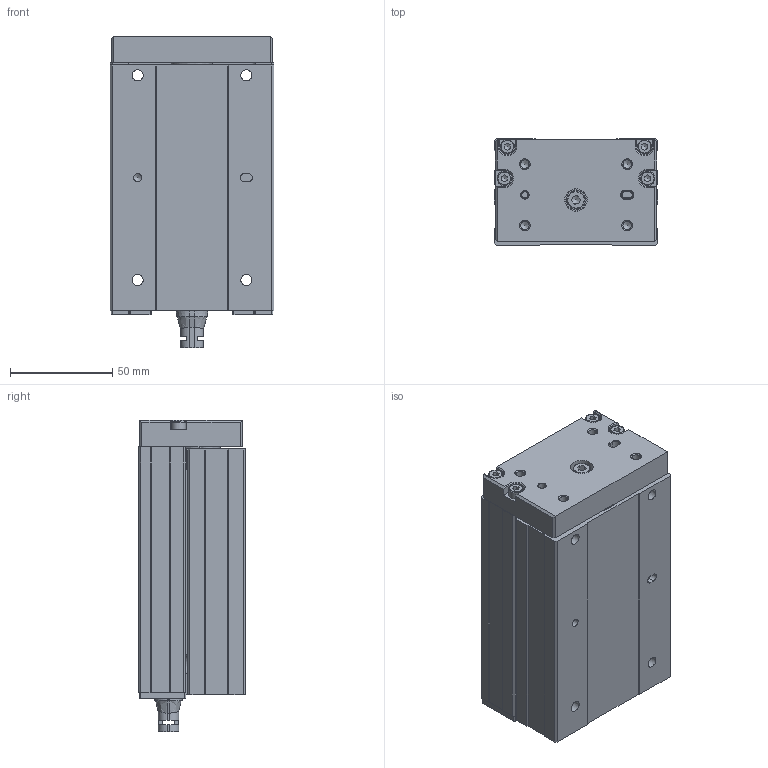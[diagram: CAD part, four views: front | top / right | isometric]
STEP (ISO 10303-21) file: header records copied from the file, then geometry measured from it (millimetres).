
FILE_DESCRIPTION((''),'2;1');
FILE_NAME('C:\Users\RD_15\Desktop\DMG40-50-3D外型.stp','2020-10-20T14:35:21',('RD_15'),(''),'Autodesk Inventor 2013','Autodesk Inventor 2013','');
FILE_SCHEMA(('AUTOMOTIVE_DESIGN { 1 0 10303 214 1 1 1 1 }'));
Length unit declared in the file: millimetre
Products named in the file (65): DMG40-50-3D外型; DMG40-50本體; 零件4730; 零件4774; 零件4776; 零件4778; 零件4782; 零件4804; 零件4806; 零件4808; 零件4810; 零件4812; 零件4814; 零件4816; 零件4820; 零件4738; 零件4842; 零件4844; 零件4846; 零件4848; 零件4850; 零件4852; 零件4854; 零件4856; 零件4858; 零件4860; 零件4862; 零件4864; 零件4866; 零件4868; 零件4870; 零件4872; 零件4874; 零件4876; 零件4878; 零件4880; 零件4882; 零件4946; 零件4948; 零件4950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
Assembly tree (66 placements, depth 2):
  DMG40-50-3D外型
    DMG40-50本體
    零件4730
    零件4774
    零件4776
    零件4778
    零件4782
    零件4804
    零件4806
    零件4808
    零件4810
    零件4812
    零件4814
    零件4816
    零件4820
    零件4738
    零件4842
    零件4844
    零件4846
    零件4848
    零件4850
    零件4852
    零件4854
    零件4856
    零件4858
    零件4860
    零件4862
    零件4864
    零件4866
    零件4868  x3
    零件4870
    零件4872
    零件4874
    零件4876
    零件4878
    零件4880
    零件4882
    零件4946
    零件4948
    零件4950
    零件4952
    零件4954
    零件4956
    零件1666
    零件1646
    零件4736
    零件4734
    零件4776_1
    零件4778_1
    零件4784
    零件4786
    零件4788
    零件4790
    零件4792
    零件4796
    零件4798
    零件4800
    零件4926
    零件4928
    零件4930
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Bounding box: 80 x 52 x 152 mm (x, y, z)
Volume: 495489.4 mm3; surface area: 124997.1 mm2
Topology: 66 solids, 69 shells, 3045 faces, 8022 edges, 5190 vertices
Faces by surface type: plane 2002, cylinder 448, cone 411, torus 118, bspline 52, sphere 14
Full cylindrical faces by diameter (mm): 1 x4, 1.783 x8, 2 x8, 2.224 x8, 2.459 x4, 2.5 x8, 3 x16, 3.242 x4, 3.5 x5, 4 x7, 4.059 x4, 4.134 x8, 4.5 x4, 4.7 x8, 5 x1, 5.1 x2, 5.3 x2, 5.4 x4, 5.54 x4, 5.6 x2, 5.9 x2, 6.2 x2, 7 x4, 8 x1, 8.5 x1, 9 x9, 10 x2, 10.3 x1, 11 x2, 12.8 x1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
Entity records: 100019 total; most frequent: CARTESIAN_POINT 24885, ORIENTED_EDGE 14874, DIRECTION 14832, EDGE_CURVE 7437, VECTOR 5384, LINE 5384, VERTEX_POINT 5007, AXIS2_PLACEMENT_3D 4724
